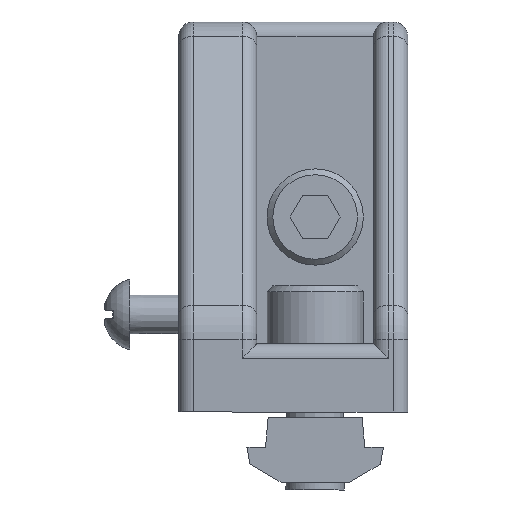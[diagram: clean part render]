
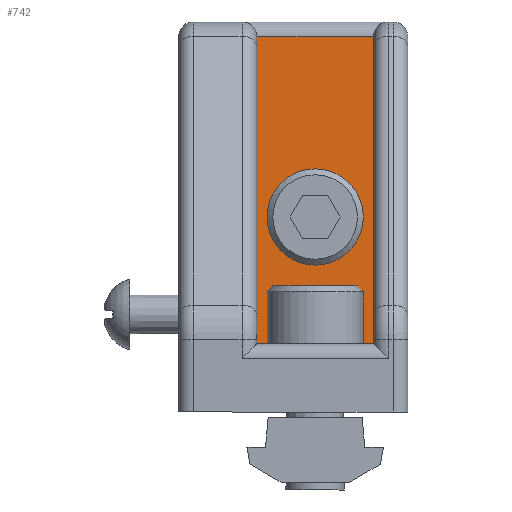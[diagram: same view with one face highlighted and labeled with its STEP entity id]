
A CAD part, front view. The second image highlights one B-rep face of the part: STEP entity #742.
In plain terms, the highlighted planar face has unit normal (0, -1, 0) as drawn and (0, 1, 0) by its records, which use the part's own axes.
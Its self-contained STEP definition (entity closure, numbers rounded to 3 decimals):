
#742=ADVANCED_FACE('',(#1485,#1486),#1487,.F.);
#1485=FACE_BOUND('',#2280,.T.);
#1486=FACE_OUTER_BOUND('',#2281,.T.);
#1487=PLANE('',#2282);
#2280=EDGE_LOOP('',(#4052));
#2281=EDGE_LOOP('',(#4053,#4054,#4055,#4056));
#2282=AXIS2_PLACEMENT_3D('',#4057,#4058,#4059);
#4052=ORIENTED_EDGE('',*,*,#4824,.F.);
#4053=ORIENTED_EDGE('',*,*,#5326,.F.);
#4054=ORIENTED_EDGE('',*,*,#4994,.T.);
#4055=ORIENTED_EDGE('',*,*,#5327,.F.);
#4056=ORIENTED_EDGE('',*,*,#5328,.F.);
#4057=CARTESIAN_POINT('',(7.,7.0,15.5));
#4058=DIRECTION('',(0.0,-1.0,0.0));
#4059=DIRECTION('',(1.0,0.0,0.0));
#4824=EDGE_CURVE('',#5718,#5718,#5719,.T.);
#4994=EDGE_CURVE('',#6014,#6012,#6015,.F.);
#5326=EDGE_CURVE('',#6014,#6458,#6459,.T.);
#5327=EDGE_CURVE('',#6460,#6012,#6461,.T.);
#5328=EDGE_CURVE('',#6458,#6460,#6462,.T.);
#5718=VERTEX_POINT('',#7025);
#5719=CIRCLE('',#7026,3.25);
#6012=VERTEX_POINT('',#7417);
#6014=VERTEX_POINT('',#7419);
#6015=LINE('',#7420,#7421);
#6458=VERTEX_POINT('',#8035);
#6459=LINE('',#8036,#8037);
#6460=VERTEX_POINT('',#8038);
#6461=LINE('',#8039,#8040);
#6462=LINE('',#8041,#8042);
#7025=CARTESIAN_POINT('',(23.25,7.0,21.5));
#7026=AXIS2_PLACEMENT_3D('',#8645,#8646,#8647);
#7417=CARTESIAN_POINT('',(38.5,7.0,15.5));
#7419=CARTESIAN_POINT('',(38.5,7.0,27.5));
#7420=CARTESIAN_POINT('',(38.5,7.0,15.5));
#7421=VECTOR('',#8893,1.0);
#8035=CARTESIAN_POINT('',(7.,7.0,27.5));
#8036=CARTESIAN_POINT('',(40.,7.0,27.5));
#8037=VECTOR('',#9197,1.0);
#8038=CARTESIAN_POINT('',(7.,7.0,15.5));
#8039=CARTESIAN_POINT('',(7.,7.0,15.5));
#8040=VECTOR('',#9198,1.0);
#8041=CARTESIAN_POINT('',(7.,7.0,27.5));
#8042=VECTOR('',#9199,1.0);
#8645=CARTESIAN_POINT('',(20.0,7.0,21.5));
#8646=DIRECTION('',(-0.0,1.0,0.0));
#8647=DIRECTION('',(1.0,0.0,0.0));
#8893=DIRECTION('',(0.0,0.0,1.0));
#9197=DIRECTION('',(-1.0,0.0,0.0));
#9198=DIRECTION('',(1.0,0.0,0.0));
#9199=DIRECTION('',(0.0,0.0,-1.0));
